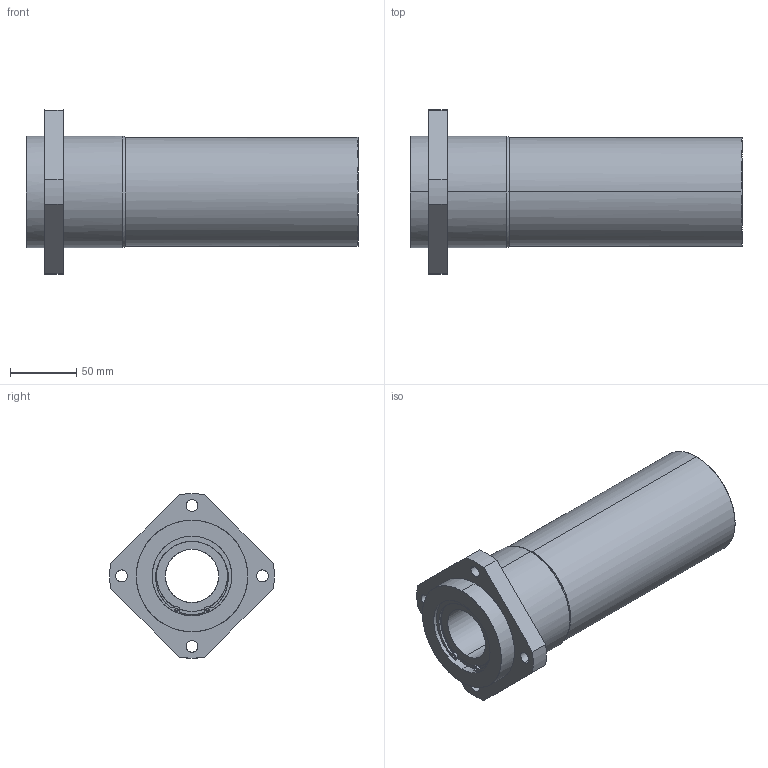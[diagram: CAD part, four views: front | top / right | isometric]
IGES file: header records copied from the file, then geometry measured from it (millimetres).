
Global section: file name: No Iges File Name specified; native system: AutoDesk Inventor R11.0; preprocessor: AutoDesk Inventor Iges Exporter R11.0; author: No Author specified; organization: No Organization specified; date: 20170922.141033; units: millimetre
Bounding box: 250 x 123.84 x 123.92 mm (x, y, z)
Surface area: 129334 mm2 (no closed solid volume)
Topology: 0 solids, 0 shells, 133 faces, 948 edges, 948 vertices
Faces by surface type: bspline 133
